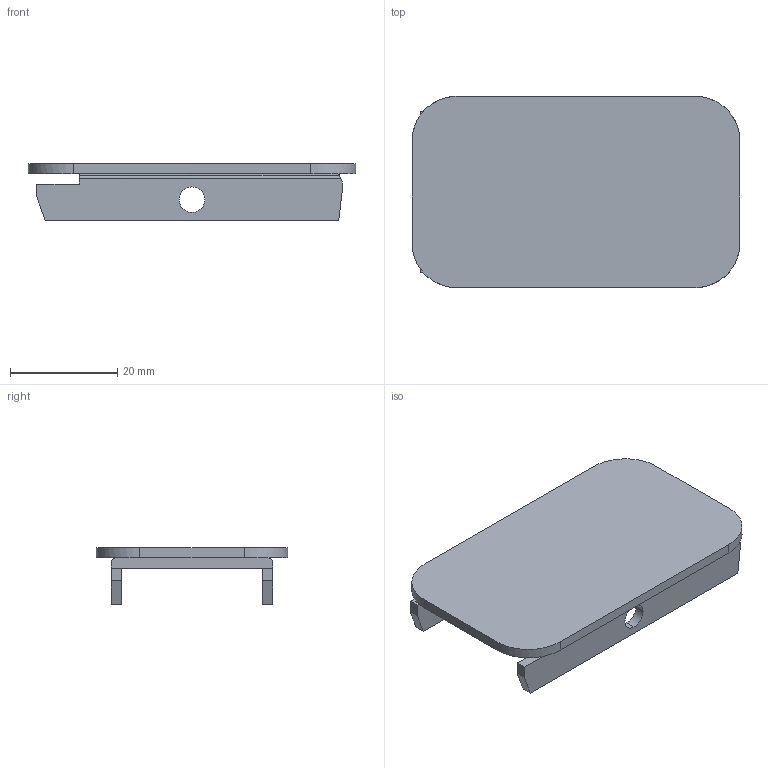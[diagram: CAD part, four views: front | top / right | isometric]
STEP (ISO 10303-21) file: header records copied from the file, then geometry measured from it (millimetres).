
FILE_DESCRIPTION(('TurboCAD Mac Pro'),'Build 980');
FILE_NAME('P5580.stp',' ',(''),(''),'ACIS Interop','IMSI','TurboCAD Mac Pro BY IMSI, INCORPORATED');
FILE_SCHEMA(('automotive_design'));
Length unit declared in the file: inch
Products named in the file (1): 1
Bounding box: 61.12 x 35.72 x 10.56 mm (x, y, z)
Volume: 8216.2 mm3; surface area: 6646.7 mm2
Topology: 1 solids, 1 shells, 49 faces, 138 edges, 92 vertices
Faces by surface type: plane 29, bspline 12, cylinder 8
Entity records: 2064 total; most frequent: CARTESIAN_POINT 436, ORIENTED_EDGE 276, DIRECTION 206, EDGE_CURVE 138, LINE 98, VECTOR 98, VERTEX_POINT 92, AXIS2_PLACEMENT_3D 54
